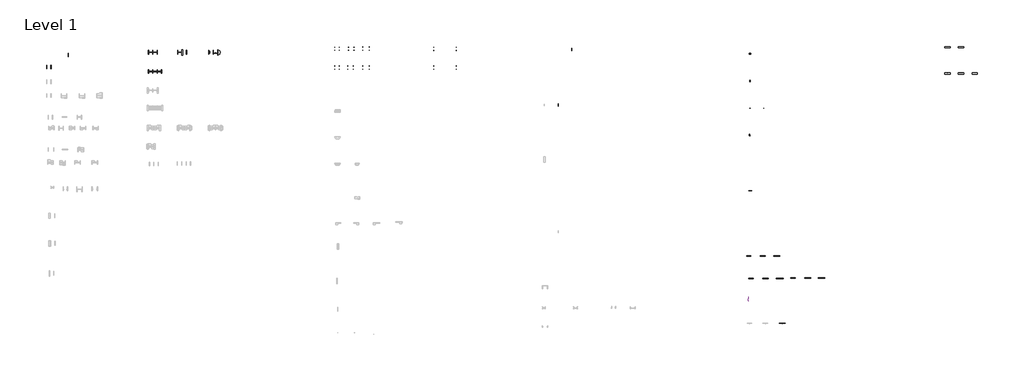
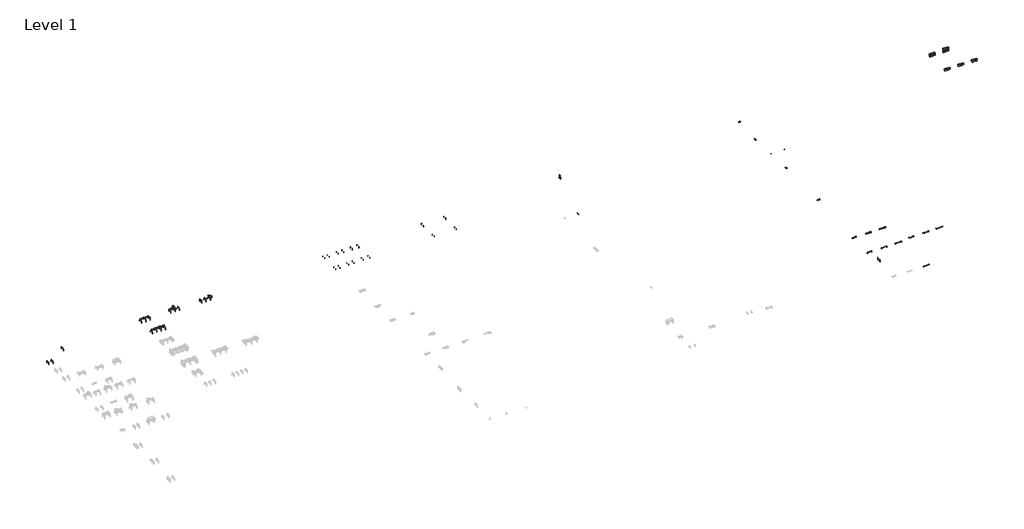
# One storey, part 4 of 4: 118 furniture elements.
"""IFC4 building model written with IfcOpenShell, lengths in millimetres."""

from ifc_helpers import new_model, si_unit, origin, place, context, project, spatial, transform, mapped, element, save
from components import furniture_07929c5c, furniture_bd7a3b76, furniture_5ffd5a01, furniture_51eb2225, furniture_e66c60fa, furniture_06153b70, furniture_46c987b0, furniture_2_high_e7bb6557, furniture_2_high_e7661cec, furniture_3_high_cb3a7265, furniture_48w_80b5658e, furniture_48w_e2995653, furniture_48w_f59d3814, furniture_60w_9ca0c22e, furniture_72w_779c4fb6, furniture_72w_24902055, attachment_bracket_e48f39cd, freestanding_leg_a306e1b8, full_half_8ba35e3a, full_half_125b1efd, full_half_34de2e61, full_2cae2f0a, lower_48w_d15a52aa, lower_60w_76b18c54, lower_72w_69a91847, lower_infill_5093e7bb, organizer_70f5f413, package_of_four_442cce5f, shroud_0d320042, side_storage_3572fcca, table_mount_8f96cead, upper_48w_1558e68d, upper_60w_f62813fc, upper_72w_3a9c6955, upper_infill_980a8054

model = new_model("IFC4")

# Units and contexts
model_context = context("Model", 3, world=origin())
ifc_project = project(units=[si_unit("LENGTHUNIT", "METRE", prefix="MILLI")], contexts=[model_context])

# Site, building, storey
site = spatial("IfcSite", under=ifc_project)
building = spatial("IfcBuilding", under=site)
storey = spatial("IfcBuildingStorey", under=building, Name="Level 1", Elevation=0.0)

# Furniture
placement = place(None, origin())
furniture_shape = furniture_07929c5c(model_context)
element("IfcFurniture", 1, ObjectType="Steelcase Turnstone - Bivi - Table - Leg : 2D x 42 1/4W 28 1/2H", at=placement, inside=storey, context=model_context, shape_type="MappedRepresentation", body=[
    mapped(furniture_shape, transform((693709.5422567, 2593.4006326, 0.0), x_axis=(-1.0, 0.0, 0.0), y_axis=(0.0, -1.0, 0.0), z_axis=(0.0, 0.0, 1.0))),
])
element("IfcFurniture", 2, ObjectType="Steelcase Turnstone - Bivi - Table - Leg : 2D x 42 1/4W 28 1/2H", at=placement, inside=storey, context=model_context, shape_type="MappedRepresentation", body=[
    mapped(furniture_shape, transform((722187.3850089, 6705.9277009, 0.0), x_axis=(-1.0, 0.0, 0.0), y_axis=(0.0, -1.0, 0.0), z_axis=(0.0, 0.0, 1.0))),
])
element("IfcFurniture", 3, ObjectType="Steelcase Turnstone - Bivi - Table - Leg : 2D x 42 1/4W 28 1/2H", at=placement, inside=storey, context=model_context, shape_type="MappedRepresentation", body=[
    mapped(furniture_shape, transform((723404.9086089, 6705.9277009, 0.0), x_axis=(-1.0, 0.0, 0.0), y_axis=(0.0, -1.0, 0.0), z_axis=(0.0, 0.0, 1.0))),
])
element("IfcFurniture", 4, ObjectType="Steelcase Turnstone - Bivi - Table - Leg : 2D x 42 1/4W 28 1/2H", at=placement, inside=storey, context=model_context, shape_type="MappedRepresentation", body=[
    mapped(furniture_shape, transform((722187.3850089, 1371.9277009, 0.0), x_axis=(-1.0, 0.0, 0.0), y_axis=(0.0, -1.0, 0.0), z_axis=(0.0, 0.0, 1.0))),
])
element("IfcFurniture", 5, ObjectType="Steelcase Turnstone - Bivi - Table - Leg : 2D x 42 1/4W 28 1/2H", at=placement, inside=storey, context=model_context, shape_type="MappedRepresentation", body=[
    mapped(furniture_shape, transform((723404.9086089, 1371.9277009, 0.0), x_axis=(-1.0, 0.0, 0.0), y_axis=(0.0, -1.0, 0.0), z_axis=(0.0, 0.0, 1.0))),
])
element("IfcFurniture", 6, ObjectType="Steelcase Turnstone - Bivi - Table - Leg : 2D x 42 1/4W 28 1/2H", at=placement, inside=storey, context=model_context, shape_type="MappedRepresentation", body=[
    mapped(furniture_shape, transform((724625.6085377, 1371.9277009, 0.0), x_axis=(-1.0, 0.0, 0.0), y_axis=(0.0, -1.0, 0.0), z_axis=(0.0, 0.0, 1.0))),
])
element("IfcFurniture", 7, ObjectType="Steelcase Turnstone - Bivi - Table - Leg : 2D x 42 1/4W 28 1/2H", at=placement, inside=storey, context=model_context, shape_type="MappedRepresentation", body=[
    mapped(furniture_shape, transform((730416.9850089, 6705.9277009, 0.0), x_axis=(-1.0, 0.0, 0.0), y_axis=(0.0, -1.0, 0.0), z_axis=(0.0, 0.0, 1.0))),
])
element("IfcFurniture", 8, ObjectType="Steelcase Turnstone - Bivi - Table - Leg : 2D x 42 1/4W 28 1/2H", at=placement, inside=storey, context=model_context, shape_type="MappedRepresentation", body=[
    mapped(furniture_shape, transform((731634.5086089, 6705.9277009, 0.0), x_axis=(-1.0, 0.0, 0.0), y_axis=(0.0, -1.0, 0.0), z_axis=(0.0, 0.0, 1.0))),
])
element("IfcFurniture", 9, ObjectType="Steelcase Turnstone - Bivi - Table - Leg : 2D x 42 1/4W 28 1/2H", at=placement, inside=storey, context=model_context, shape_type="MappedRepresentation", body=[
    mapped(furniture_shape, transform((739103.7850089, 6705.9277009, 0.0), x_axis=(-1.0, 0.0, 0.0), y_axis=(0.0, -1.0, 0.0), z_axis=(0.0, 0.0, 1.0))),
])
element("IfcFurniture", 10, ObjectType="Steelcase Turnstone - Bivi - Table - Leg : 2D x 42 1/4W 28 1/2H", at=placement, inside=storey, context=model_context, shape_type="MappedRepresentation", body=[
    mapped(furniture_shape, transform((740321.3086089, 6705.9277009, 0.0), x_axis=(-1.0, 0.0, 0.0), y_axis=(0.0, -1.0, 0.0), z_axis=(0.0, 0.0, 1.0))),
])
furniture_2_shape = furniture_bd7a3b76(model_context)
element("IfcFurniture", 11, ObjectType="Steelcase Turnstone - Bivi - Table - Half Round : 27D x 60W x 8H", at=placement, inside=storey, context=model_context, shape_type="MappedRepresentation", body=[
    mapped(furniture_2_shape, transform((740322.1468089, 6488.7672358, 0.0), x_axis=(0.0, 1.0000000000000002, 0.0), y_axis=(-1.0000000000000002, 0.0, 0.0), z_axis=(0.0, 0.0, 1.0))),
])
furniture_3_shape = furniture_5ffd5a01(model_context)
element("IfcFurniture", 12, ObjectType="Steelcase Turnstone - Bivi - Table - Leg : 2D x 42 1/4W 28 1/2H", at=placement, inside=storey, context=model_context, shape_type="MappedRepresentation", body=[
    mapped(furniture_3_shape, transform((698505.3944816, 5964.3041702, 0.0), x_axis=(1.0, 0.0, 0.0), y_axis=(0.0, 1.0, 0.0), z_axis=(0.0, 0.0, 1.0))),
])
element("IfcFurniture", 13, ObjectType="Steelcase Turnstone - Bivi - Table - Leg : 2D x 42 1/4W 28 1/2H", at=placement, inside=storey, context=model_context, shape_type="MappedRepresentation", body=[
    mapped(furniture_3_shape, transform((692442.8950567, 2593.4006326, 0.0), x_axis=(1.0, 0.0, 0.0), y_axis=(0.0, 1.0, 0.0), z_axis=(0.0, 0.0, 1.0))),
])
element("IfcFurniture", 14, ObjectType="Steelcase Turnstone - Bivi - Table - Leg : 2D x 42 1/4W 28 1/2H", at=placement, inside=storey, context=model_context, shape_type="MappedRepresentation", body=[
    mapped(furniture_3_shape, transform((720920.7378089, 6705.9277009, 0.0), x_axis=(1.0, 0.0, 0.0), y_axis=(0.0, 1.0, 0.0), z_axis=(0.0, 0.0, 1.0))),
])
element("IfcFurniture", 15, ObjectType="Steelcase Turnstone - Bivi - Table - Leg : 2D x 42 1/4W 28 1/2H", at=placement, inside=storey, context=model_context, shape_type="MappedRepresentation", body=[
    mapped(furniture_3_shape, transform((720920.7378089, 1371.9277009, 0.0), x_axis=(1.0, 0.0, 0.0), y_axis=(0.0, 1.0, 0.0), z_axis=(0.0, 0.0, 1.0))),
])
element("IfcFurniture", 16, ObjectType="Steelcase Turnstone - Bivi - Table - Leg : 2D x 42 1/4W 28 1/2H", at=placement, inside=storey, context=model_context, shape_type="MappedRepresentation", body=[
    mapped(furniture_3_shape, transform((729150.3378089, 6705.9277009, 0.0), x_axis=(1.0, 0.0, 0.0), y_axis=(0.0, 1.0, 0.0), z_axis=(0.0, 0.0, 1.0))),
])
element("IfcFurniture", 17, ObjectType="Steelcase Turnstone - Bivi - Table - Leg : 2D x 42 1/4W 28 1/2H", at=placement, inside=storey, context=model_context, shape_type="MappedRepresentation", body=[
    mapped(furniture_3_shape, transform((737837.1378089, 6705.9277009, 0.0), x_axis=(1.0, 0.0, 0.0), y_axis=(0.0, 1.0, 0.0), z_axis=(0.0, 0.0, 1.0))),
])
furniture_4_shape = furniture_51eb2225(model_context)
element("IfcFurniture", 18, ObjectType="Steelcase Turnstone - Bivi - Accessories - Bottom Shelf : 8 1/2D x 18 1/2W x 17H", at=placement, inside=storey, context=model_context, shape_type="MappedRepresentation", body=[
    mapped(furniture_4_shape, transform((889134.0697483, -991.7848693, 0.0), x_axis=(1.0, 0.0, 0.0), y_axis=(0.0, 1.0, 0.0), z_axis=(0.0, 0.0, 1.0))),
])
element("IfcFurniture", 19, ObjectType="Steelcase Turnstone - Bivi - Accessories - Bottom Shelf : 8 1/2D x 18 1/2W x 17H", at=placement, inside=storey, context=model_context, shape_type="MappedRepresentation", body=[
    mapped(furniture_4_shape, transform((737891.8236221, 7016.5616234, 0.0), x_axis=(0.999999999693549, -2.4756878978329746e-05, 0.0), y_axis=(2.4756878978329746e-05, 0.999999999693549, 0.0), z_axis=(0.0, 0.0, 1.0))),
])
furniture_5_shape = furniture_e66c60fa(model_context)
element("IfcFurniture", 20, ObjectType="Steelcase Turnstone - Bivi - Accessories - Top Shelf : 8 1/2D x 19W x 8H", at=placement, inside=storey, context=model_context, shape_type="MappedRepresentation", body=[
    mapped(furniture_5_shape, transform((888997.542054, 6966.3629013, 0.0), x_axis=(1.0, 0.0, 0.0), y_axis=(0.0, 1.0, 0.0), z_axis=(0.0, 0.0, 1.0))),
])
furniture_6_shape = furniture_06153b70(model_context)
element("IfcFurniture", 21, ObjectType="Steelcase Turnstone - Bivi - Arch Accessories - Markerboard : 30W x 6H", at=placement, inside=storey, context=model_context, shape_type="MappedRepresentation", body=[
    mapped(furniture_6_shape, transform((835541.5800919, -7741.6552347, 0.0), x_axis=(1.0, 0.0, 0.0), y_axis=(0.0, 1.0, 0.0), z_axis=(0.0, 0.0, 1.0))),
])
furniture_7_shape = furniture_46c987b0(model_context)
element("IfcFurniture", 22, ObjectType="Steelcase Turnstone - Bivi - Storage - Trunk Support : Attachcment Bracket", at=placement, inside=storey, context=model_context, shape_type="MappedRepresentation", body=[
    mapped(furniture_7_shape, transform((947521.3031815, 1548.9136528, 0.0), x_axis=(1.0, 0.0, 0.0), y_axis=(0.0, 1.0, 0.0), z_axis=(0.0, 0.0, 1.0))),
])
furniture_2_high_shape = furniture_2_high_e7bb6557(model_context)
furniture_2_high_2_shape = furniture_2_high_e7661cec(model_context)
element("IfcFurniture", 23, ObjectType="Steelcase Turnstone - Bivi - Storage - Depot : 2 High", at=placement, inside=storey, context=model_context, shape_type="MappedRepresentation", body=[
    mapped(furniture_2_high_shape, transform((943711.3031815, 8514.1016353, 0.0), x_axis=(1.0, 0.0, 0.0), y_axis=(0.0, 1.0, 0.0), z_axis=(0.0, 0.0, 1.0))),
    mapped(furniture_2_high_2_shape, transform((943711.3031815, 8514.1016353, 0.0), x_axis=(1.0, 0.0, 0.0), y_axis=(0.0, 1.0, 0.0), z_axis=(0.0, 0.0, 1.0))),
])
furniture_3_high_shape = furniture_3_high_cb3a7265(model_context)
element("IfcFurniture", 24, ObjectType="Steelcase Turnstone - Bivi - Storage - Depot : 3 High", at=placement, inside=storey, context=model_context, shape_type="MappedRepresentation", body=[
    mapped(furniture_3_high_shape, transform((947521.3031815, 8514.1016353, 0.0), x_axis=(1.0, 0.0, 0.0), y_axis=(0.0, 1.0, 0.0), z_axis=(0.0, 0.0, 1.0))),
    mapped(furniture_2_high_2_shape, transform((947521.3031815, 8514.1016353, 0.0), x_axis=(1.0, 0.0, 0.0), y_axis=(0.0, 1.0, 0.0), z_axis=(0.0, 0.0, 1.0))),
])
furniture_48w_shape = furniture_48w_80b5658e(model_context)
element("IfcFurniture", 25, ObjectType="Steelcase Turnstone - Bivi - Accessories - High Sit Bracket with Modesty Panel : 48W", at=placement, inside=storey, context=model_context, shape_type="MappedRepresentation", body=[
    mapped(furniture_48w_shape, transform((723509.9630089, 1998.3230508, 0.0), x_axis=(-1.0, 0.0, 0.0), y_axis=(0.0, -1.0, 0.0), z_axis=(0.0, 0.0, 1.0))),
])
furniture_48w_2_shape = furniture_48w_e2995653(model_context)
element("IfcFurniture", 26, ObjectType="Steelcase Turnstone - Bivi - Accessories - Monitor Arm Table Mount : 48W", at=placement, inside=storey, context=model_context, shape_type="MappedRepresentation", body=[
    mapped(furniture_48w_2_shape, transform((739581.93944, 6860.909787, 0.0), x_axis=(1.0, 0.0, 0.0), y_axis=(0.0, 1.0, 0.0), z_axis=(0.0, 0.0, 1.0))),
])
furniture_48w_3_shape = furniture_48w_f59d3814(model_context)
element("IfcFurniture", 27, ObjectType="Steelcase Turnstone - Bivi - Accessories - High Sit Bracket with Modesty Panel : 48W", at=placement, inside=storey, context=model_context, shape_type="MappedRepresentation", body=[
    mapped(furniture_48w_3_shape, transform((888107.2919204, -49627.9612295, 0.0), x_axis=(1.0, 0.0, 0.0), y_axis=(0.0, 1.0, 0.0), z_axis=(0.0, 0.0, 1.0))),
])
element("IfcFurniture", 28, ObjectType="Steelcase Turnstone - Bivi - Accessories - High Sit Bracket with Modesty Panel : 48W", at=placement, inside=storey, context=model_context, shape_type="MappedRepresentation", body=[
    mapped(furniture_48w_3_shape, transform((720815.6834089, 1998.3230508, 0.0), x_axis=(1.0, 0.0, 0.0), y_axis=(0.0, 1.0, 0.0), z_axis=(0.0, 0.0, 1.0))),
])
element("IfcFurniture", 29, ObjectType="Steelcase Turnstone - Bivi - Accessories - High Sit Bracket with Modesty Panel : 48W", at=placement, inside=storey, context=model_context, shape_type="MappedRepresentation", body=[
    mapped(furniture_48w_3_shape, transform((723250.7306089, 1998.3230508, 0.0), x_axis=(1.0, 0.0, 0.0), y_axis=(0.0, 1.0, 0.0), z_axis=(0.0, 0.0, 1.0))),
])
furniture_60w_shape = furniture_60w_9ca0c22e(model_context)
element("IfcFurniture", 30, ObjectType="Steelcase Turnstone - Bivi - Accessories - High Sit Bracket with Modesty Panel : 60W", at=placement, inside=storey, context=model_context, shape_type="MappedRepresentation", body=[
    mapped(furniture_60w_shape, transform((892040.7352646, -49627.9612295, 0.0), x_axis=(1.0, 0.0, 0.0), y_axis=(0.0, 1.0, 0.0), z_axis=(0.0, 0.0, 1.0))),
])
furniture_72w_shape = furniture_72w_779c4fb6(model_context)
element("IfcFurniture", 31, ObjectType="Steelcase Turnstone - Bivi - Accessories - Monitor Arm Table Mount : 72W", at=placement, inside=storey, context=model_context, shape_type="MappedRepresentation", body=[
    mapped(furniture_72w_shape, transform((898124.396485, -68407.9198126, 0.0), x_axis=(1.0, 0.0, 0.0), y_axis=(0.0, 1.0, 0.0), z_axis=(0.0, 0.0, 1.0))),
])
furniture_72w_2_shape = furniture_72w_24902055(model_context)
element("IfcFurniture", 32, ObjectType="Steelcase Turnstone - Bivi - Accessories - High Sit Bracket with Modesty Panel : 72W", at=placement, inside=storey, context=model_context, shape_type="MappedRepresentation", body=[
    mapped(furniture_72w_2_shape, transform((895974.1786087, -49627.9612295, 0.0), x_axis=(1.0, 0.0, 0.0), y_axis=(0.0, 1.0, 0.0), z_axis=(0.0, 0.0, 1.0))),
])
attachment_bracket_shape = attachment_bracket_e48f39cd(model_context)
element("IfcFurniture", 33, ObjectType="Steelcase Turnstone - Bivi - Storage - Trunk : Attachment Bracket", at=placement, inside=storey, context=model_context, shape_type="MappedRepresentation", body=[
    mapped(attachment_bracket_shape, transform((947521.3031815, 1524.3519737, 0.0), x_axis=(1.0, 0.0, 0.0), y_axis=(0.0, 1.0, 0.0), z_axis=(0.0, 0.0, 1.0))),
])
freestanding_leg_shape = freestanding_leg_a306e1b8(model_context)
element("IfcFurniture", 34, ObjectType="Steelcase Turnstone - Bivi - Storage - Trunk Support : Freestanding Leg", at=placement, inside=storey, context=model_context, shape_type="MappedRepresentation", body=[
    mapped(freestanding_leg_shape, transform((951331.3031815, 1548.9136528, 0.0), x_axis=(1.0, 0.0, 0.0), y_axis=(0.0, 1.0, 0.0), z_axis=(0.0, 0.0, 1.0))),
])
element("IfcFurniture", 35, ObjectType="Steelcase Turnstone - Bivi - Storage - Trunk : Freestanding Leg", at=placement, inside=storey, context=model_context, shape_type="MappedRepresentation", body=[
    mapped(attachment_bracket_shape, transform((951331.3031815, 1524.3519737, 0.0), x_axis=(1.0, 0.0, 0.0), y_axis=(0.0, 1.0, 0.0), z_axis=(0.0, 0.0, 1.0))),
])
full_half_shape = full_half_8ba35e3a(model_context)
element("IfcFurniture", 36, ObjectType="Steelcase Turnstone - Bivi - Table - Leg Cover : Full/Half", at=placement, inside=storey, context=model_context, shape_type="MappedRepresentation", body=[
    mapped(full_half_shape, transform((778412.3774429, 7696.5391293, 0.0), x_axis=(1.0, 0.0, 0.0), y_axis=(0.0, 1.0, 0.0), z_axis=(0.0, 0.0, 1.0))),
])
element("IfcFurniture", 37, ObjectType="Steelcase Turnstone - Bivi - Table - Leg Cover : Full/Half", at=placement, inside=storey, context=model_context, shape_type="MappedRepresentation", body=[
    mapped(full_half_shape, transform((774297.5774429, 7696.5391293, 0.0), x_axis=(1.0, 0.0, 0.0), y_axis=(0.0, 1.0, 0.0), z_axis=(0.0, 0.0, 1.0))),
])
element("IfcFurniture", 38, ObjectType="Steelcase Turnstone - Bivi - Table - Leg Cover : Full/Half", at=placement, inside=storey, context=model_context, shape_type="MappedRepresentation", body=[
    mapped(full_half_shape, transform((773067.3030429, 2426.679125, 0.0), x_axis=(1.0, 0.0, 0.0), y_axis=(0.0, 1.0, 0.0), z_axis=(0.0, 0.0, 1.0))),
])
element("IfcFurniture", 39, ObjectType="Steelcase Turnstone - Bivi - Table - Leg Cover : Full/Half", at=placement, inside=storey, context=model_context, shape_type="MappedRepresentation", body=[
    mapped(full_half_shape, transform((776708.1696856, 2423.8318487, 0.0), x_axis=(1.0, 0.0, 0.0), y_axis=(0.0, 1.0, 0.0), z_axis=(0.0, 0.0, 1.0))),
])
element("IfcFurniture", 40, ObjectType="Steelcase Turnstone - Bivi - Table - Leg Cover : Full/Half", at=placement, inside=storey, context=model_context, shape_type="MappedRepresentation", body=[
    mapped(full_half_shape, transform((780839.7030429, 2426.6810599, 0.0), x_axis=(1.0, 0.0, 0.0), y_axis=(0.0, 1.0, 0.0), z_axis=(0.0, 0.0, 1.0))),
])
element("IfcFurniture", 41, ObjectType="Steelcase Turnstone - Bivi - Table - Leg Cover : Full/Half", at=placement, inside=storey, context=model_context, shape_type="MappedRepresentation", body=[
    mapped(full_half_shape, transform((800783.3766429, 2426.6872895, 0.0), x_axis=(1.0, 0.0, 0.0), y_axis=(0.0, 1.0, 0.0), z_axis=(0.0, 0.0, 1.0))),
])
element("IfcFurniture", 42, ObjectType="Steelcase Turnstone - Bivi - Table - Leg Cover : Full/Half", at=placement, inside=storey, context=model_context, shape_type="MappedRepresentation", body=[
    mapped(full_half_shape, transform((698505.3944816, 5964.3041702, 0.0), x_axis=(1.0, 0.0, 0.0), y_axis=(0.0, 1.0, 0.0), z_axis=(0.0, 0.0, 1.0))),
])
element("IfcFurniture", 43, ObjectType="Steelcase Turnstone - Bivi - Table - Leg Cover : Full/Half", at=placement, inside=storey, context=model_context, shape_type="MappedRepresentation", body=[
    mapped(full_half_shape, transform((692442.8950567, 2593.4006326, 0.0), x_axis=(1.0, 0.0, 0.0), y_axis=(0.0, 1.0, 0.0), z_axis=(0.0, 0.0, 1.0))),
])
element("IfcFurniture", 44, ObjectType="Steelcase Turnstone - Bivi - Table - Leg Cover : Full/Half", at=placement, inside=storey, context=model_context, shape_type="MappedRepresentation", body=[
    mapped(full_half_shape, transform((693709.5422567, 3666.6745315, 0.0), x_axis=(-1.0, 0.0, 0.0), y_axis=(0.0, -1.0, 0.0), z_axis=(0.0, 0.0, 1.0))),
])
element("IfcFurniture", 45, ObjectType="Steelcase Turnstone - Bivi - Table - Leg Cover : Full/Half", at=placement, inside=storey, context=model_context, shape_type="MappedRepresentation", body=[
    mapped(full_half_shape, transform((720920.7378089, 6705.9277009, 0.0), x_axis=(1.0, 0.0, 0.0), y_axis=(0.0, 1.0, 0.0), z_axis=(0.0, 0.0, 1.0))),
])
element("IfcFurniture", 46, ObjectType="Steelcase Turnstone - Bivi - Table - Leg Cover : Full/Half", at=placement, inside=storey, context=model_context, shape_type="MappedRepresentation", body=[
    mapped(full_half_shape, transform((722187.3850089, 7779.2015998, 0.0), x_axis=(-1.0, 0.0, 0.0), y_axis=(0.0, -1.0, 0.0), z_axis=(0.0, 0.0, 1.0))),
])
element("IfcFurniture", 47, ObjectType="Steelcase Turnstone - Bivi - Table - Leg Cover : Full/Half", at=placement, inside=storey, context=model_context, shape_type="MappedRepresentation", body=[
    mapped(full_half_shape, transform((723404.9086089, 7779.2015998, 0.0), x_axis=(-1.0, 0.0, 0.0), y_axis=(0.0, -1.0, 0.0), z_axis=(0.0, 0.0, 1.0))),
])
element("IfcFurniture", 48, ObjectType="Steelcase Turnstone - Bivi - Table - Leg Cover : Full/Half", at=placement, inside=storey, context=model_context, shape_type="MappedRepresentation", body=[
    mapped(full_half_shape, transform((720920.7378089, 1371.9277009, 0.0), x_axis=(1.0, 0.0, 0.0), y_axis=(0.0, 1.0, 0.0), z_axis=(0.0, 0.0, 1.0))),
])
element("IfcFurniture", 49, ObjectType="Steelcase Turnstone - Bivi - Table - Leg Cover : Full/Half", at=placement, inside=storey, context=model_context, shape_type="MappedRepresentation", body=[
    mapped(full_half_shape, transform((722187.3850089, 2445.2015998, 0.0), x_axis=(-1.0, 0.0, 0.0), y_axis=(0.0, -1.0, 0.0), z_axis=(0.0, 0.0, 1.0))),
])
element("IfcFurniture", 50, ObjectType="Steelcase Turnstone - Bivi - Table - Leg Cover : Full/Half", at=placement, inside=storey, context=model_context, shape_type="MappedRepresentation", body=[
    mapped(full_half_shape, transform((723404.9086089, 2445.2015998, 0.0), x_axis=(-1.0, 0.0, 0.0), y_axis=(0.0, -1.0, 0.0), z_axis=(0.0, 0.0, 1.0))),
])
element("IfcFurniture", 51, ObjectType="Steelcase Turnstone - Bivi - Table - Leg Cover : Full/Half", at=placement, inside=storey, context=model_context, shape_type="MappedRepresentation", body=[
    mapped(full_half_shape, transform((724625.6085377, 2445.2015998, 0.0), x_axis=(-1.0, 0.0, 0.0), y_axis=(0.0, -1.0, 0.0), z_axis=(0.0, 0.0, 1.0))),
])
element("IfcFurniture", 52, ObjectType="Steelcase Turnstone - Bivi - Table - Leg Cover : Full/Half", at=placement, inside=storey, context=model_context, shape_type="MappedRepresentation", body=[
    mapped(full_half_shape, transform((729150.3378089, 6705.9277009, 0.0), x_axis=(1.0, 0.0, 0.0), y_axis=(0.0, 1.0, 0.0), z_axis=(0.0, 0.0, 1.0))),
])
element("IfcFurniture", 53, ObjectType="Steelcase Turnstone - Bivi - Table - Leg Cover : Full/Half", at=placement, inside=storey, context=model_context, shape_type="MappedRepresentation", body=[
    mapped(full_half_shape, transform((730416.9850089, 7779.2015998, 0.0), x_axis=(-1.0, 0.0, 0.0), y_axis=(0.0, -1.0, 0.0), z_axis=(0.0, 0.0, 1.0))),
])
element("IfcFurniture", 54, ObjectType="Steelcase Turnstone - Bivi - Table - Leg Cover : Full/Half", at=placement, inside=storey, context=model_context, shape_type="MappedRepresentation", body=[
    mapped(full_half_shape, transform((731634.5086089, 7779.2015998, 0.0), x_axis=(-1.0, 0.0, 0.0), y_axis=(0.0, -1.0, 0.0), z_axis=(0.0, 0.0, 1.0))),
])
element("IfcFurniture", 55, ObjectType="Steelcase Turnstone - Bivi - Table - Leg Cover : Full/Half", at=placement, inside=storey, context=model_context, shape_type="MappedRepresentation", body=[
    mapped(full_half_shape, transform((737837.1378089, 6705.9277009, 0.0), x_axis=(1.0, 0.0, 0.0), y_axis=(0.0, 1.0, 0.0), z_axis=(0.0, 0.0, 1.0))),
])
element("IfcFurniture", 56, ObjectType="Steelcase Turnstone - Bivi - Table - Leg Cover : Full/Half", at=placement, inside=storey, context=model_context, shape_type="MappedRepresentation", body=[
    mapped(full_half_shape, transform((739103.7850089, 7779.2015998, 0.0), x_axis=(-1.0, 0.0, 0.0), y_axis=(0.0, -1.0, 0.0), z_axis=(0.0, 0.0, 1.0))),
])
element("IfcFurniture", 57, ObjectType="Steelcase Turnstone - Bivi - Table - Leg Cover : Full/Half", at=placement, inside=storey, context=model_context, shape_type="MappedRepresentation", body=[
    mapped(full_half_shape, transform((740321.3086089, 7779.2015998, 0.0), x_axis=(-1.0, 0.0, 0.0), y_axis=(0.0, -1.0, 0.0), z_axis=(0.0, 0.0, 1.0))),
])
element("IfcFurniture", 58, ObjectType="Steelcase Turnstone - Bivi - Table - Leg Cover : Full/Half", at=placement, inside=storey, context=model_context, shape_type="MappedRepresentation", body=[
    mapped(full_half_shape, transform((773067.3030429, 7696.5391293, 0.0), x_axis=(1.0, 0.0, 0.0), y_axis=(0.0, 1.0, 0.0), z_axis=(0.0, 0.0, 1.0))),
])
element("IfcFurniture", 59, ObjectType="Steelcase Turnstone - Bivi - Table - Leg Cover : Full/Half", at=placement, inside=storey, context=model_context, shape_type="MappedRepresentation", body=[
    mapped(full_half_shape, transform((776877.3030429, 7696.5391293, 0.0), x_axis=(1.0, 0.0, 0.0), y_axis=(0.0, 1.0, 0.0), z_axis=(0.0, 0.0, 1.0))),
])
element("IfcFurniture", 60, ObjectType="Steelcase Turnstone - Bivi - Table - Leg Cover : Full/Half", at=placement, inside=storey, context=model_context, shape_type="MappedRepresentation", body=[
    mapped(full_half_shape, transform((774288.1794429, 2426.679125, 0.0), x_axis=(1.0, 0.0, 0.0), y_axis=(0.0, 1.0, 0.0), z_axis=(0.0, 0.0, 1.0))),
])
element("IfcFurniture", 61, ObjectType="Steelcase Turnstone - Bivi - Table - Leg Cover : Full/Half", at=placement, inside=storey, context=model_context, shape_type="MappedRepresentation", body=[
    mapped(full_half_shape, transform((778233.8460856, 2423.8318487, 0.0), x_axis=(1.0, 0.0, 0.0), y_axis=(0.0, 1.0, 0.0), z_axis=(0.0, 0.0, 1.0))),
])
element("IfcFurniture", 62, ObjectType="Steelcase Turnstone - Bivi - Table - Leg Cover : Full/Half", at=placement, inside=storey, context=model_context, shape_type="MappedRepresentation", body=[
    mapped(full_half_shape, transform((782670.1794429, 2426.6810599, 0.0), x_axis=(1.0, 0.0, 0.0), y_axis=(0.0, 1.0, 0.0), z_axis=(0.0, 0.0, 1.0))),
])
element("IfcFurniture", 63, ObjectType="Steelcase Turnstone - Bivi - Table - Leg Cover : Full/Half", at=placement, inside=storey, context=model_context, shape_type="MappedRepresentation", body=[
    mapped(full_half_shape, transform((807033.4530429, 2426.6883897, 0.0), x_axis=(1.0, 0.0, 0.0), y_axis=(0.0, 1.0, 0.0), z_axis=(0.0, 0.0, 1.0))),
])
full_half_2_shape = full_half_125b1efd(model_context)
element("IfcFurniture", 64, ObjectType="Steelcase Turnstone - Bivi - Table - Leg Cover : Full/Half", at=placement, inside=storey, context=model_context, shape_type="MappedRepresentation", body=[
    mapped(full_half_2_shape, transform((778412.3774429, 8769.8130282, 0.0), x_axis=(1.0, 0.0, 0.0), y_axis=(0.0, 1.0, 0.0), z_axis=(0.0, 0.0, 1.0))),
])
element("IfcFurniture", 65, ObjectType="Steelcase Turnstone - Bivi - Table - Leg Cover : Full/Half", at=placement, inside=storey, context=model_context, shape_type="MappedRepresentation", body=[
    mapped(full_half_2_shape, transform((774297.5774429, 8769.8130282, 0.0), x_axis=(1.0, 0.0, 0.0), y_axis=(0.0, 1.0, 0.0), z_axis=(0.0, 0.0, 1.0))),
])
element("IfcFurniture", 66, ObjectType="Steelcase Turnstone - Bivi - Table - Leg Cover : Full/Half", at=placement, inside=storey, context=model_context, shape_type="MappedRepresentation", body=[
    mapped(full_half_2_shape, transform((773067.3030429, 3499.9530239, 0.0), x_axis=(1.0, 0.0, 0.0), y_axis=(0.0, 1.0, 0.0), z_axis=(0.0, 0.0, 1.0))),
])
element("IfcFurniture", 67, ObjectType="Steelcase Turnstone - Bivi - Table - Leg Cover : Full/Half", at=placement, inside=storey, context=model_context, shape_type="MappedRepresentation", body=[
    mapped(full_half_2_shape, transform((776708.1696856, 3497.1057476, 0.0), x_axis=(1.0, 0.0, 0.0), y_axis=(0.0, 1.0, 0.0), z_axis=(0.0, 0.0, 1.0))),
])
element("IfcFurniture", 68, ObjectType="Steelcase Turnstone - Bivi - Table - Leg Cover : Full/Half", at=placement, inside=storey, context=model_context, shape_type="MappedRepresentation", body=[
    mapped(full_half_2_shape, transform((780839.7030429, 3499.9549588, 0.0), x_axis=(1.0, 0.0, 0.0), y_axis=(0.0, 1.0, 0.0), z_axis=(0.0, 0.0, 1.0))),
])
element("IfcFurniture", 69, ObjectType="Steelcase Turnstone - Bivi - Table - Leg Cover : Full/Half", at=placement, inside=storey, context=model_context, shape_type="MappedRepresentation", body=[
    mapped(full_half_2_shape, transform((800783.3766429, 3499.9611884, 0.0), x_axis=(1.0, 0.0, 0.0), y_axis=(0.0, 1.0, 0.0), z_axis=(0.0, 0.0, 1.0))),
])
element("IfcFurniture", 70, ObjectType="Steelcase Turnstone - Bivi - Table - Leg Cover : Full/Half", at=placement, inside=storey, context=model_context, shape_type="MappedRepresentation", body=[
    mapped(full_half_2_shape, transform((698505.3944816, 7037.5780691, 0.0), x_axis=(1.0, 0.0, 0.0), y_axis=(0.0, 1.0, 0.0), z_axis=(0.0, 0.0, 1.0))),
])
element("IfcFurniture", 71, ObjectType="Steelcase Turnstone - Bivi - Table - Leg Cover : Full/Half", at=placement, inside=storey, context=model_context, shape_type="MappedRepresentation", body=[
    mapped(full_half_2_shape, transform((692442.8950567, 3666.6745315, 0.0), x_axis=(1.0, 0.0, 0.0), y_axis=(0.0, 1.0, 0.0), z_axis=(0.0, 0.0, 1.0))),
])
element("IfcFurniture", 72, ObjectType="Steelcase Turnstone - Bivi - Table - Leg Cover : Full/Half", at=placement, inside=storey, context=model_context, shape_type="MappedRepresentation", body=[
    mapped(full_half_2_shape, transform((693709.5422567, 2593.4006326, 0.0), x_axis=(-1.0, 0.0, 0.0), y_axis=(0.0, -1.0, 0.0), z_axis=(0.0, 0.0, 1.0))),
])
element("IfcFurniture", 73, ObjectType="Steelcase Turnstone - Bivi - Table - Leg Cover : Full/Half", at=placement, inside=storey, context=model_context, shape_type="MappedRepresentation", body=[
    mapped(full_half_2_shape, transform((720920.7378089, 7779.2015998, 0.0), x_axis=(1.0, 0.0, 0.0), y_axis=(0.0, 1.0, 0.0), z_axis=(0.0, 0.0, 1.0))),
])
element("IfcFurniture", 74, ObjectType="Steelcase Turnstone - Bivi - Table - Leg Cover : Full/Half", at=placement, inside=storey, context=model_context, shape_type="MappedRepresentation", body=[
    mapped(full_half_2_shape, transform((722187.3850089, 6705.9277009, 0.0), x_axis=(-1.0, 0.0, 0.0), y_axis=(0.0, -1.0, 0.0), z_axis=(0.0, 0.0, 1.0))),
])
element("IfcFurniture", 75, ObjectType="Steelcase Turnstone - Bivi - Table - Leg Cover : Full/Half", at=placement, inside=storey, context=model_context, shape_type="MappedRepresentation", body=[
    mapped(full_half_2_shape, transform((723404.9086089, 6705.9277009, 0.0), x_axis=(-1.0, 0.0, 0.0), y_axis=(0.0, -1.0, 0.0), z_axis=(0.0, 0.0, 1.0))),
])
element("IfcFurniture", 76, ObjectType="Steelcase Turnstone - Bivi - Table - Leg Cover : Full/Half", at=placement, inside=storey, context=model_context, shape_type="MappedRepresentation", body=[
    mapped(full_half_2_shape, transform((720920.7378089, 2445.2015998, 0.0), x_axis=(1.0, 0.0, 0.0), y_axis=(0.0, 1.0, 0.0), z_axis=(0.0, 0.0, 1.0))),
])
element("IfcFurniture", 77, ObjectType="Steelcase Turnstone - Bivi - Table - Leg Cover : Full/Half", at=placement, inside=storey, context=model_context, shape_type="MappedRepresentation", body=[
    mapped(full_half_2_shape, transform((722187.3850089, 1371.9277009, 0.0), x_axis=(-1.0, 0.0, 0.0), y_axis=(0.0, -1.0, 0.0), z_axis=(0.0, 0.0, 1.0))),
])
element("IfcFurniture", 78, ObjectType="Steelcase Turnstone - Bivi - Table - Leg Cover : Full/Half", at=placement, inside=storey, context=model_context, shape_type="MappedRepresentation", body=[
    mapped(full_half_2_shape, transform((723404.9086089, 1371.9277009, 0.0), x_axis=(-1.0, 0.0, 0.0), y_axis=(0.0, -1.0, 0.0), z_axis=(0.0, 0.0, 1.0))),
])
element("IfcFurniture", 79, ObjectType="Steelcase Turnstone - Bivi - Table - Leg Cover : Full/Half", at=placement, inside=storey, context=model_context, shape_type="MappedRepresentation", body=[
    mapped(full_half_2_shape, transform((724625.6085377, 1371.9277009, 0.0), x_axis=(-1.0, 0.0, 0.0), y_axis=(0.0, -1.0, 0.0), z_axis=(0.0, 0.0, 1.0))),
])
element("IfcFurniture", 80, ObjectType="Steelcase Turnstone - Bivi - Table - Leg Cover : Full/Half", at=placement, inside=storey, context=model_context, shape_type="MappedRepresentation", body=[
    mapped(full_half_2_shape, transform((729150.3378089, 7779.2015998, 0.0), x_axis=(1.0, 0.0, 0.0), y_axis=(0.0, 1.0, 0.0), z_axis=(0.0, 0.0, 1.0))),
])
element("IfcFurniture", 81, ObjectType="Steelcase Turnstone - Bivi - Table - Leg Cover : Full/Half", at=placement, inside=storey, context=model_context, shape_type="MappedRepresentation", body=[
    mapped(full_half_2_shape, transform((730416.9850089, 6705.9277009, 0.0), x_axis=(-1.0, 0.0, 0.0), y_axis=(0.0, -1.0, 0.0), z_axis=(0.0, 0.0, 1.0))),
])
element("IfcFurniture", 82, ObjectType="Steelcase Turnstone - Bivi - Table - Leg Cover : Full/Half", at=placement, inside=storey, context=model_context, shape_type="MappedRepresentation", body=[
    mapped(full_half_2_shape, transform((731634.5086089, 6705.9277009, 0.0), x_axis=(-1.0, 0.0, 0.0), y_axis=(0.0, -1.0, 0.0), z_axis=(0.0, 0.0, 1.0))),
])
element("IfcFurniture", 83, ObjectType="Steelcase Turnstone - Bivi - Table - Leg Cover : Full/Half", at=placement, inside=storey, context=model_context, shape_type="MappedRepresentation", body=[
    mapped(full_half_2_shape, transform((737837.1378089, 7779.2015998, 0.0), x_axis=(1.0, 0.0, 0.0), y_axis=(0.0, 1.0, 0.0), z_axis=(0.0, 0.0, 1.0))),
])
element("IfcFurniture", 84, ObjectType="Steelcase Turnstone - Bivi - Table - Leg Cover : Full/Half", at=placement, inside=storey, context=model_context, shape_type="MappedRepresentation", body=[
    mapped(full_half_2_shape, transform((739103.7850089, 6705.9277009, 0.0), x_axis=(-1.0, 0.0, 0.0), y_axis=(0.0, -1.0, 0.0), z_axis=(0.0, 0.0, 1.0))),
])
element("IfcFurniture", 85, ObjectType="Steelcase Turnstone - Bivi - Table - Leg Cover : Full/Half", at=placement, inside=storey, context=model_context, shape_type="MappedRepresentation", body=[
    mapped(full_half_2_shape, transform((740321.3086089, 6705.9277009, 0.0), x_axis=(-1.0, 0.0, 0.0), y_axis=(0.0, -1.0, 0.0), z_axis=(0.0, 0.0, 1.0))),
])
element("IfcFurniture", 86, ObjectType="Steelcase Turnstone - Bivi - Table - Leg Cover : Full/Half", at=placement, inside=storey, context=model_context, shape_type="MappedRepresentation", body=[
    mapped(full_half_2_shape, transform((773067.3030429, 8769.8130282, 0.0), x_axis=(1.0, 0.0, 0.0), y_axis=(0.0, 1.0, 0.0), z_axis=(0.0, 0.0, 1.0))),
])
element("IfcFurniture", 87, ObjectType="Steelcase Turnstone - Bivi - Table - Leg Cover : Full/Half", at=placement, inside=storey, context=model_context, shape_type="MappedRepresentation", body=[
    mapped(full_half_2_shape, transform((776877.3030429, 8769.8130282, 0.0), x_axis=(1.0, 0.0, 0.0), y_axis=(0.0, 1.0, 0.0), z_axis=(0.0, 0.0, 1.0))),
])
element("IfcFurniture", 88, ObjectType="Steelcase Turnstone - Bivi - Table - Leg Cover : Full/Half", at=placement, inside=storey, context=model_context, shape_type="MappedRepresentation", body=[
    mapped(full_half_2_shape, transform((774288.1794429, 3499.9530239, 0.0), x_axis=(1.0, 0.0, 0.0), y_axis=(0.0, 1.0, 0.0), z_axis=(0.0, 0.0, 1.0))),
])
element("IfcFurniture", 89, ObjectType="Steelcase Turnstone - Bivi - Table - Leg Cover : Full/Half", at=placement, inside=storey, context=model_context, shape_type="MappedRepresentation", body=[
    mapped(full_half_2_shape, transform((778233.8460856, 3497.1057476, 0.0), x_axis=(1.0, 0.0, 0.0), y_axis=(0.0, 1.0, 0.0), z_axis=(0.0, 0.0, 1.0))),
])
element("IfcFurniture", 90, ObjectType="Steelcase Turnstone - Bivi - Table - Leg Cover : Full/Half", at=placement, inside=storey, context=model_context, shape_type="MappedRepresentation", body=[
    mapped(full_half_2_shape, transform((782670.1794429, 3499.9549588, 0.0), x_axis=(1.0, 0.0, 0.0), y_axis=(0.0, 1.0, 0.0), z_axis=(0.0, 0.0, 1.0))),
])
element("IfcFurniture", 91, ObjectType="Steelcase Turnstone - Bivi - Table - Leg Cover : Full/Half", at=placement, inside=storey, context=model_context, shape_type="MappedRepresentation", body=[
    mapped(full_half_2_shape, transform((807033.4530429, 3499.9622886, 0.0), x_axis=(1.0, 0.0, 0.0), y_axis=(0.0, 1.0, 0.0), z_axis=(0.0, 0.0, 1.0))),
])
full_half_3_shape = full_half_34de2e61(model_context)
element("IfcFurniture", 92, ObjectType="Steelcase Turnstone - Bivi - Table - Leg Cover : Full/Half", at=placement, inside=storey, context=model_context, shape_type="MappedRepresentation", body=[
    mapped(full_half_3_shape, transform((782679.5774429, 8842.8380221, 0.0), x_axis=(1.0, 0.0, 0.0), y_axis=(0.0, 1.0, 0.0), z_axis=(0.0, 0.0, 1.0))),
])
element("IfcFurniture", 93, ObjectType="Steelcase Turnstone - Bivi - Table - Leg Cover : Full/Half", at=placement, inside=storey, context=model_context, shape_type="MappedRepresentation", body=[
    mapped(full_half_3_shape, transform((807042.8510429, 8769.8130282, 0.0), x_axis=(1.0, 0.0, 0.0), y_axis=(0.0, 1.0, 0.0), z_axis=(0.0, 0.0, 1.0))),
])
element("IfcFurniture", 94, ObjectType="Steelcase Turnstone - Bivi - Table - Leg Cover : Full/Half", at=placement, inside=storey, context=model_context, shape_type="MappedRepresentation", body=[
    mapped(full_half_3_shape, transform((780839.7030429, 8842.8380221, 0.0), x_axis=(1.0, 0.0, 0.0), y_axis=(0.0, 1.0, 0.0), z_axis=(0.0, 0.0, 1.0))),
])
element("IfcFurniture", 95, ObjectType="Steelcase Turnstone - Bivi - Table - Leg Cover : Full/Half", at=placement, inside=storey, context=model_context, shape_type="MappedRepresentation", body=[
    mapped(full_half_3_shape, transform((800783.3766429, 8769.8130282, 0.0), x_axis=(1.0, 0.0, 0.0), y_axis=(0.0, 1.0, 0.0), z_axis=(0.0, 0.0, 1.0))),
])
full_shape = full_2cae2f0a(model_context)
element("IfcFurniture", 96, ObjectType="Steelcase Turnstone - Bivi - Table - Leg Cover : Full/Half", at=placement, inside=storey, context=model_context, shape_type="MappedRepresentation", body=[
    mapped(full_shape, transform((782679.5774429, 7769.5641232, 0.0), x_axis=(1.0, 0.0, 0.0), y_axis=(0.0, 1.0, 0.0), z_axis=(0.0, 0.0, 1.0))),
])
element("IfcFurniture", 97, ObjectType="Steelcase Turnstone - Bivi - Table - Leg Cover : Full/Half", at=placement, inside=storey, context=model_context, shape_type="MappedRepresentation", body=[
    mapped(full_shape, transform((807042.8510429, 7696.5391293, 0.0), x_axis=(1.0, 0.0, 0.0), y_axis=(0.0, 1.0, 0.0), z_axis=(0.0, 0.0, 1.0))),
])
element("IfcFurniture", 98, ObjectType="Steelcase Turnstone - Bivi - Table - Leg Cover : Full/Half", at=placement, inside=storey, context=model_context, shape_type="MappedRepresentation", body=[
    mapped(full_shape, transform((780839.7030429, 7769.5641232, 0.0), x_axis=(1.0, 0.0, 0.0), y_axis=(0.0, 1.0, 0.0), z_axis=(0.0, 0.0, 1.0))),
])
element("IfcFurniture", 99, ObjectType="Steelcase Turnstone - Bivi - Table - Leg Cover : Full/Half", at=placement, inside=storey, context=model_context, shape_type="MappedRepresentation", body=[
    mapped(full_shape, transform((800783.3766429, 7696.5391293, 0.0), x_axis=(1.0, 0.0, 0.0), y_axis=(0.0, 1.0, 0.0), z_axis=(0.0, 0.0, 1.0))),
])
lower_48w_shape = lower_48w_d15a52aa(model_context)
element("IfcFurniture", 100, ObjectType="Steelcase Turnstone - Bivi - Accessories - Footshelf : Lower - 48W", at=placement, inside=storey, context=model_context, shape_type="MappedRepresentation", body=[
    mapped(lower_48w_shape, transform((888845.6699204, -55654.0440906, 0.0), x_axis=(1.0, 0.0, 0.0), y_axis=(0.0, 1.0, 0.0), z_axis=(0.0, 0.0, 1.0))),
])
lower_60w_shape = lower_60w_76b18c54(model_context)
element("IfcFurniture", 101, ObjectType="Steelcase Turnstone - Bivi - Accessories - Footshelf : Lower - 60W", at=placement, inside=storey, context=model_context, shape_type="MappedRepresentation", body=[
    mapped(lower_60w_shape, transform((892779.1132646, -55654.0440906, 0.0), x_axis=(1.0, 0.0, 0.0), y_axis=(0.0, 1.0, 0.0), z_axis=(0.0, 0.0, 1.0))),
])
lower_72w_shape = lower_72w_69a91847(model_context)
element("IfcFurniture", 102, ObjectType="Steelcase Turnstone - Bivi - Accessories - Footshelf : Lower - 72W", at=placement, inside=storey, context=model_context, shape_type="MappedRepresentation", body=[
    mapped(lower_72w_shape, transform((896629.9253022, -55654.0440906, 0.0), x_axis=(1.0, 0.0, 0.0), y_axis=(0.0, 1.0, 0.0), z_axis=(0.0, 0.0, 1.0))),
])
lower_infill_shape = lower_infill_5093e7bb(model_context)
element("IfcFurniture", 103, ObjectType="Steelcase Turnstone - Bivi - Arch - Infill : Lower Infill", at=placement, inside=storey, context=model_context, shape_type="MappedRepresentation", body=[
    mapped(lower_infill_shape, transform((839324.8592919, 7499.8068204, 0.0), x_axis=(1.0, 0.0, 0.0), y_axis=(0.0, 1.0, 0.0), z_axis=(0.0, 0.0, 1.0))),
])
organizer_shape = organizer_70f5f413(model_context)
element("IfcFurniture", 104, ObjectType="Steelcase Turnstone - Bivi - Accessories - Organizer : Organizer", at=placement, inside=storey, context=model_context, shape_type="MappedRepresentation", body=[
    mapped(organizer_shape, transform((889057.4610826, -16126.9361033, 0.0), x_axis=(1.0, 0.0, 0.0), y_axis=(0.0, 1.0, 0.0), z_axis=(0.0, 0.0, 1.0))),
])
package_of_four_shape = package_of_four_442cce5f(model_context)
element("IfcFurniture", 105, ObjectType="Steelcase Turnstone - Bivi - Accessories - Hook : Package Of Four", at=placement, inside=storey, context=model_context, shape_type="MappedRepresentation", body=[
    mapped(package_of_four_shape, transform((893023.4421811, -8403.8858647, 0.0), x_axis=(1.0, 0.0, 0.0), y_axis=(0.0, 1.0, 0.0), z_axis=(0.0, 0.0, 1.0))),
])
element("IfcFurniture", 106, ObjectType="Steelcase Turnstone - Bivi - Accessories - Hook : Package Of Two", at=placement, inside=storey, context=model_context, shape_type="MappedRepresentation", body=[
    mapped(package_of_four_shape, transform((889219.615037, -8403.8858647, 0.0), x_axis=(1.0, 0.0, 0.0), y_axis=(0.0, 1.0, 0.0), z_axis=(0.0, 0.0, 1.0))),
])
element("IfcFurniture", 107, ObjectType="Steelcase Turnstone - Bivi - Accessories - Hook : Package Of Two", at=placement, inside=storey, context=model_context, shape_type="MappedRepresentation", body=[
    mapped(package_of_four_shape, transform((737837.1378089, 6929.0338202, 0.0), x_axis=(-1.0000000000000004, 0.0, 0.0), y_axis=(0.0, -1.0000000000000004, 0.0), z_axis=(0.0, 0.0, 1.0))),
])
shroud_shape = shroud_0d320042(model_context)
element("IfcFurniture", 108, ObjectType="Steelcase Turnstone - Bivi - Accessories - Media Support System - Shroud : Shroud", at=placement, inside=storey, context=model_context, shape_type="MappedRepresentation", body=[
    mapped(shroud_shape, transform((888783.801054, -61951.7848693, 0.0), x_axis=(1.0, 0.0, 0.0), y_axis=(0.0, 1.0, 0.0), z_axis=(0.0, 0.0, 1.0))),
])
side_storage_shape = side_storage_3572fcca(model_context)
element("IfcFurniture", 109, ObjectType="Steelcase Turnstone - Bivi - Arch Accessories - Side Storage : Side Storage", at=placement, inside=storey, context=model_context, shape_type="MappedRepresentation", body=[
    mapped(side_storage_shape, transform((729605.9122089, 7073.3506506, 0.0), x_axis=(1.0, 0.0, 0.0), y_axis=(0.0, 1.0, 0.0), z_axis=(0.0, 0.0, 1.0))),
])
table_mount_shape = table_mount_8f96cead(model_context)
element("IfcFurniture", 110, ObjectType="Steelcase Turnstone - Bivi - Accessories - Screen - Metal : Table Mount", at=placement, inside=storey, context=model_context, shape_type="MappedRepresentation", body=[
    mapped(table_mount_shape, transform((888847.8289204, -31727.2440906, 0.0), x_axis=(1.0, 0.0, 0.0), y_axis=(0.0, 1.0, 0.0), z_axis=(0.0, 0.0, 1.0))),
])
element("IfcFurniture", 111, ObjectType="Steelcase Turnstone - Bivi - Accessories - Screen - Metal : Table Mount", at=placement, inside=storey, context=model_context, shape_type="MappedRepresentation", body=[
    mapped(table_mount_shape, transform((721120.1596526, 7016.5411852, 0.0), x_axis=(1.0, 0.0, 0.0), y_axis=(0.0, 1.0, 0.0), z_axis=(0.0, 0.0, 1.0))),
])
element("IfcFurniture", 112, ObjectType="Steelcase Turnstone - Bivi - Accessories - Screen - Metal : Table Mount", at=placement, inside=storey, context=model_context, shape_type="MappedRepresentation", body=[
    mapped(table_mount_shape, transform((722337.6832526, 7016.5411852, 0.0), x_axis=(1.0, 0.0, 0.0), y_axis=(0.0, 1.0, 0.0), z_axis=(0.0, 0.0, 1.0))),
])
element("IfcFurniture", 113, ObjectType="Steelcase Turnstone - Bivi - Accessories - Screen - Metal : Table Mount", at=placement, inside=storey, context=model_context, shape_type="MappedRepresentation", body=[
    mapped(table_mount_shape, transform((729349.7596526, 7016.5411852, 0.0), x_axis=(1.0, 0.0, 0.0), y_axis=(0.0, 1.0, 0.0), z_axis=(0.0, 0.0, 1.0))),
])
upper_48w_shape = upper_48w_1558e68d(model_context)
element("IfcFurniture", 114, ObjectType="Steelcase Turnstone - Bivi - Accessories - Footshelf : Upper - 48W", at=placement, inside=storey, context=model_context, shape_type="MappedRepresentation", body=[
    mapped(upper_48w_shape, transform((900682.9562602, -55654.0440906, 0.0), x_axis=(1.0, 0.0, 0.0), y_axis=(0.0, 1.0, 0.0), z_axis=(0.0, 0.0, 1.0))),
])
upper_60w_shape = upper_60w_f62813fc(model_context)
element("IfcFurniture", 115, ObjectType="Steelcase Turnstone - Bivi - Accessories - Footshelf : Upper - 60W", at=placement, inside=storey, context=model_context, shape_type="MappedRepresentation", body=[
    mapped(upper_60w_shape, transform((904616.3996043, -55654.0440906, 0.0), x_axis=(1.0, 0.0, 0.0), y_axis=(0.0, 1.0, 0.0), z_axis=(0.0, 0.0, 1.0))),
])
upper_72w_shape = upper_72w_3a9c6955(model_context)
element("IfcFurniture", 116, ObjectType="Steelcase Turnstone - Bivi - Accessories - Footshelf : Upper - 72W", at=placement, inside=storey, context=model_context, shape_type="MappedRepresentation", body=[
    mapped(upper_72w_shape, transform((908288.842054, -55654.0440906, 0.0), x_axis=(1.0, 0.0, 0.0), y_axis=(0.0, 1.0, 0.0), z_axis=(0.0, 0.0, 1.0))),
])
upper_infill_shape = upper_infill_980a8054(model_context)
element("IfcFurniture", 117, ObjectType="Steelcase Turnstone - Bivi - Arch - Infill : Upper Infill", at=placement, inside=storey, context=model_context, shape_type="MappedRepresentation", body=[
    mapped(upper_infill_shape, transform((839324.8592919, 7499.8068204, 0.0), x_axis=(1.0, 0.0, 0.0), y_axis=(0.0, 1.0, 0.0), z_axis=(0.0, 0.0, 1.0))),
])
element("IfcFurniture", 118, ObjectType="Steelcase Turnstone - Bivi - Storage - Trunk : Without Support", at=placement, inside=storey, context=model_context, shape_type="MappedRepresentation", body=[
    mapped(attachment_bracket_shape, transform((943711.3031815, 1524.3519737, 0.0), x_axis=(1.0, 0.0, 0.0), y_axis=(0.0, 1.0, 0.0), z_axis=(0.0, 0.0, 1.0))),
])

save(model, "model.ifc")
